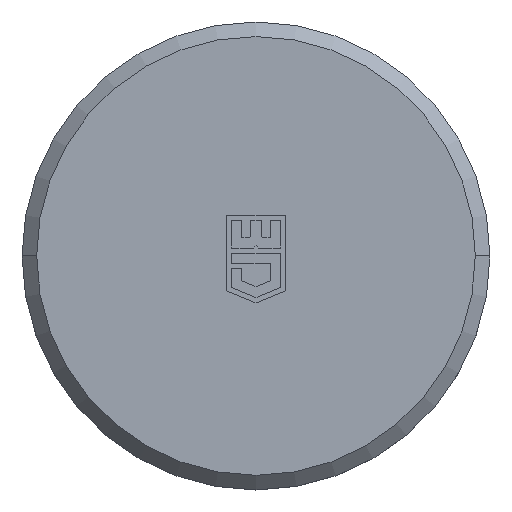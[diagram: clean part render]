
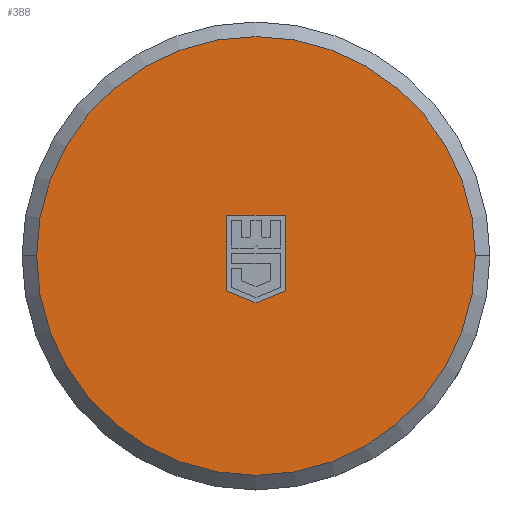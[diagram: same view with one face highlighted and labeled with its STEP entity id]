
A CAD part, top view. The second image highlights one B-rep face of the part: STEP entity #388.
In plain terms, the highlighted planar face has unit normal (0, 0, 1).
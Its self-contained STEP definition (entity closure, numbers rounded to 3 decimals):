
#253 = VERTEX_POINT ( 'NONE', #851 ) ;
#255 = ORIENTED_EDGE ( 'NONE', *, *, #256, .T. ) ;
#256 = EDGE_CURVE ( 'NONE', #406, #253, #850, .T. ) ;
#257 = ORIENTED_EDGE ( 'NONE', *, *, #269, .T. ) ;
#258 = VERTEX_POINT ( 'NONE', #846 ) ;
#259 = ORIENTED_EDGE ( 'NONE', *, *, #260, .T. ) ;
#260 = EDGE_CURVE ( 'NONE', #258, #402, #845, .T. ) ;
#269 = EDGE_CURVE ( 'NONE', #253, #258, #1101, .T. ) ;
#388 = ADVANCED_FACE ( 'NONE', ( #938, #937 ), #935, .F. ) ;
#389 = EDGE_LOOP ( 'NONE', ( #390, #392 ) ) ;
#390 = ORIENTED_EDGE ( 'NONE', *, *, #391, .T. ) ;
#391 = EDGE_CURVE ( 'NONE', #562, #589, #930, .T. ) ;
#392 = ORIENTED_EDGE ( 'NONE', *, *, #561, .T. ) ;
#393 = EDGE_LOOP ( 'NONE', ( #400, #404, #255, #257, #259 ) ) ;
#400 = ORIENTED_EDGE ( 'NONE', *, *, #401, .T. ) ;
#401 = EDGE_CURVE ( 'NONE', #402, #403, #916, .T. ) ;
#402 = VERTEX_POINT ( 'NONE', #912 ) ;
#403 = VERTEX_POINT ( 'NONE', #911 ) ;
#404 = ORIENTED_EDGE ( 'NONE', *, *, #405, .T. ) ;
#405 = EDGE_CURVE ( 'NONE', #403, #406, #910, .T. ) ;
#406 = VERTEX_POINT ( 'NONE', #906 ) ;
#561 = EDGE_CURVE ( 'NONE', #589, #562, #1590, .T. ) ;
#562 = VERTEX_POINT ( 'NONE', #1585 ) ;
#589 = VERTEX_POINT ( 'NONE', #1505 ) ;
#842 = DIRECTION ( 'NONE',  ( -0.924, -0.383, 0. ) ) ;
#843 = VECTOR ( 'NONE', #842, 1000. ) ;
#844 = CARTESIAN_POINT ( 'NONE',  ( 0., -3.21, 0. ) ) ;
#845 = LINE ( 'NONE', #844, #843 ) ;
#846 = CARTESIAN_POINT ( 'NONE',  ( 2., -2.382, 0. ) ) ;
#847 = DIRECTION ( 'NONE',  ( 1., 0., 0. ) ) ;
#848 = VECTOR ( 'NONE', #847, 1000. ) ;
#849 = CARTESIAN_POINT ( 'NONE',  ( -2., 2.79, 0. ) ) ;
#850 = LINE ( 'NONE', #849, #848 ) ;
#851 = CARTESIAN_POINT ( 'NONE',  ( 2., 2.79, 0. ) ) ;
#906 = CARTESIAN_POINT ( 'NONE',  ( -2., 2.79, 0. ) ) ;
#907 = DIRECTION ( 'NONE',  ( 0., 1., 0. ) ) ;
#908 = VECTOR ( 'NONE', #907, 1000. ) ;
#909 = CARTESIAN_POINT ( 'NONE',  ( -2., -2.382, 0. ) ) ;
#910 = LINE ( 'NONE', #909, #908 ) ;
#911 = CARTESIAN_POINT ( 'NONE',  ( -2., -2.382, 0. ) ) ;
#912 = CARTESIAN_POINT ( 'NONE',  ( 0., -3.21, 0. ) ) ;
#913 = DIRECTION ( 'NONE',  ( -0.924, 0.383, 0. ) ) ;
#914 = VECTOR ( 'NONE', #913, 1000. ) ;
#915 = CARTESIAN_POINT ( 'NONE',  ( 0., -3.21, 0. ) ) ;
#916 = LINE ( 'NONE', #915, #914 ) ;
#927 = DIRECTION ( 'NONE',  ( 1., 0., 0. ) ) ;
#928 = DIRECTION ( 'NONE',  ( 0., 0., 1. ) ) ;
#929 = AXIS2_PLACEMENT_3D ( 'NONE', #936, #928, #927 ) ;
#930 = CIRCLE ( 'NONE', #929, 15. ) ;
#931 = DIRECTION ( 'NONE',  ( -1., 0., 0. ) ) ;
#932 = DIRECTION ( 'NONE',  ( 0., 0., -1. ) ) ;
#933 = CARTESIAN_POINT ( 'NONE',  ( 0., 15., 0. ) ) ;
#934 = AXIS2_PLACEMENT_3D ( 'NONE', #933, #932, #931 ) ;
#935 = PLANE ( 'NONE',  #934 ) ;
#936 = CARTESIAN_POINT ( 'NONE',  ( 0., 0., 0. ) ) ;
#937 = FACE_BOUND ( 'NONE', #393, .T. ) ;
#938 = FACE_OUTER_BOUND ( 'NONE', #389, .T. ) ;
#1098 = DIRECTION ( 'NONE',  ( 0., -1., 0. ) ) ;
#1099 = VECTOR ( 'NONE', #1098, 1000. ) ;
#1100 = CARTESIAN_POINT ( 'NONE',  ( 2., 2.79, 0. ) ) ;
#1101 = LINE ( 'NONE', #1100, #1099 ) ;
#1505 = CARTESIAN_POINT ( 'NONE',  ( 15., 0., 0. ) ) ;
#1585 = CARTESIAN_POINT ( 'NONE',  ( -15., 0., 0. ) ) ;
#1586 = DIRECTION ( 'NONE',  ( 1., 0., 0. ) ) ;
#1587 = DIRECTION ( 'NONE',  ( 0., 0., 1. ) ) ;
#1588 = CARTESIAN_POINT ( 'NONE',  ( 0., 0., 0. ) ) ;
#1589 = AXIS2_PLACEMENT_3D ( 'NONE', #1588, #1587, #1586 ) ;
#1590 = CIRCLE ( 'NONE', #1589, 15. ) ;
